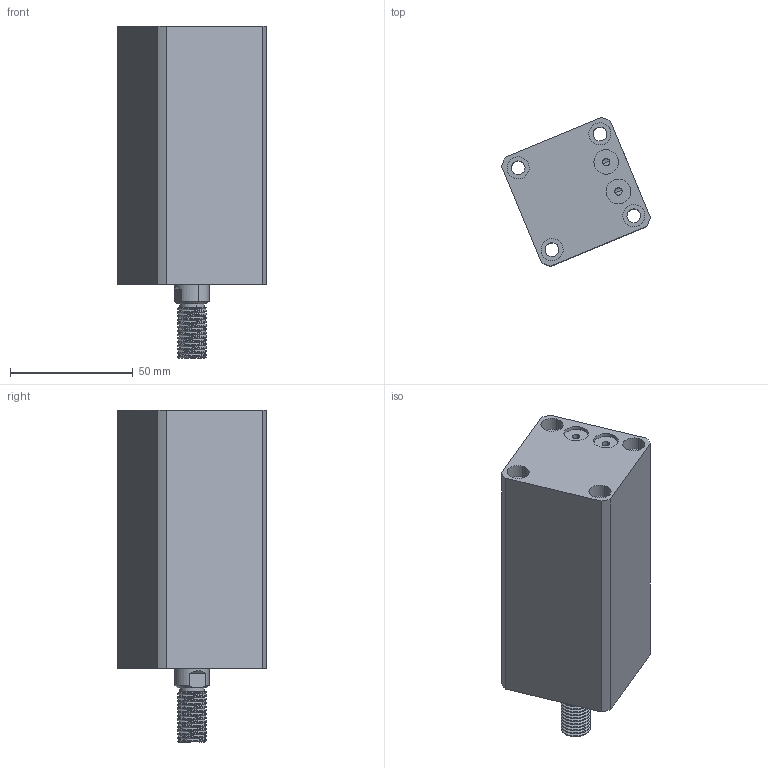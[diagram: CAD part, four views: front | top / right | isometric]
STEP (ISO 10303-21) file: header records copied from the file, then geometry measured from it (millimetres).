
FILE_DESCRIPTION (( 'STEP AP214' ), '1' );
FILE_NAME ('chtb-sdmb25x60w_asm.STEP', '2018-05-24T02:33:13', ( 'Windows' ), ( 'Microsoft' ), 'SwSTEP 2.0', 'SolidWorks 2015', '' );
FILE_SCHEMA (( 'AUTOMOTIVE_DESIGN' ));
Length unit declared in the file: millimetre
Products named in the file (4): CHTB-SDMB25X60WHSG; CHTB-SDMB25X60NBT; CHTB-25QG; chtb-sdmb25x60w_asm
Assembly tree (3 placements, depth 2):
  chtb-sdmb25x60w_asm
    CHTB-25QG
    CHTB-SDMB25X60NBT
    CHTB-SDMB25X60WHSG
Bounding box: 60.55 x 60.55 x 135 mm (x, y, z)
Volume: 209348.3 mm3; surface area: 53663.6 mm2
Topology: 3 solids, 3 shells, 176 faces, 476 edges, 323 vertices
Faces by surface type: cylinder 118, plane 37, bspline 12, cone 9
Entity records: 10721 total; most frequent: CARTESIAN_POINT 6406, ORIENTED_EDGE 944, DIRECTION 765, EDGE_CURVE 472, VERTEX_POINT 323, AXIS2_PLACEMENT_3D 310, EDGE_LOOP 215, ADVANCED_FACE 176
